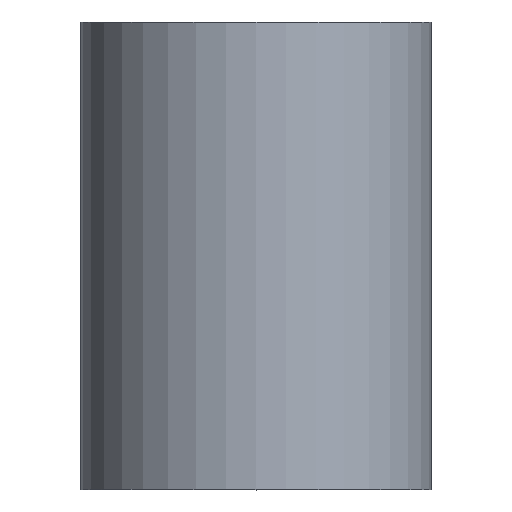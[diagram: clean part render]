
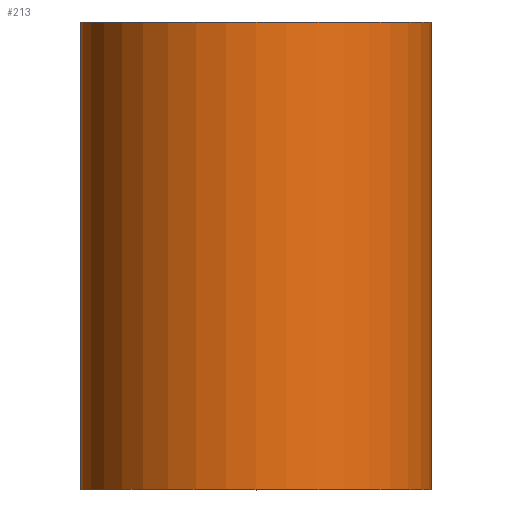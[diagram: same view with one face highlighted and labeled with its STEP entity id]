
A CAD part, top view. The second image highlights one B-rep face of the part: STEP entity #213.
In plain terms, the highlighted cylindrical face has radius 3 mm (diameter 6 mm), a partial arc.
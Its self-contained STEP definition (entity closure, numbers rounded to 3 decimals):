
#5 = DIRECTION ( 'NONE',  ( 0., 1., 0. ) ) ;
#8 = ORIENTED_EDGE ( 'NONE', *, *, #224, .T. ) ;
#15 = ORIENTED_EDGE ( 'NONE', *, *, #169, .T. ) ;
#18 = CARTESIAN_POINT ( 'NONE',  ( -3., 0., 0. ) ) ;
#19 = CARTESIAN_POINT ( 'NONE',  ( 0., 8., 0. ) ) ;
#33 = ORIENTED_EDGE ( 'NONE', *, *, #187, .F. ) ;
#53 = CARTESIAN_POINT ( 'NONE',  ( -3., 0., 0. ) ) ;
#56 = CARTESIAN_POINT ( 'NONE',  ( 3., 0., 0. ) ) ;
#72 = CYLINDRICAL_SURFACE ( 'NONE', #129, 3. ) ;
#91 = DIRECTION ( 'NONE',  ( 0., 1., 0. ) ) ;
#102 = LINE ( 'NONE', #53, #256 ) ;
#104 = CIRCLE ( 'NONE', #141, 3. ) ;
#116 = DIRECTION ( 'NONE',  ( 0., 1., 0. ) ) ;
#129 = AXIS2_PLACEMENT_3D ( 'NONE', #162, #5, #212 ) ;
#131 = FACE_OUTER_BOUND ( 'NONE', #246, .T. ) ;
#132 = LINE ( 'NONE', #56, #200 ) ;
#141 = AXIS2_PLACEMENT_3D ( 'NONE', #19, #91, #244 ) ;
#156 = CARTESIAN_POINT ( 'NONE',  ( 0., 0., 0. ) ) ;
#162 = CARTESIAN_POINT ( 'NONE',  ( 0., 0., 0. ) ) ;
#163 = CARTESIAN_POINT ( 'NONE',  ( -3., 8., 0. ) ) ;
#169 = EDGE_CURVE ( 'NONE', #289, #181, #214, .T. ) ;
#170 = ORIENTED_EDGE ( 'NONE', *, *, #294, .F. ) ;
#178 = VERTEX_POINT ( 'NONE', #217 ) ;
#181 = VERTEX_POINT ( 'NONE', #215 ) ;
#187 = EDGE_CURVE ( 'NONE', #289, #229, #102, .T. ) ;
#188 = DIRECTION ( 'NONE',  ( 0., 1., 0. ) ) ;
#200 = VECTOR ( 'NONE', #188, 1000. ) ;
#212 = DIRECTION ( 'NONE',  ( -1., 0., 0. ) ) ;
#213 = ADVANCED_FACE ( 'NONE', ( #131 ), #72, .T. ) ;
#214 = CIRCLE ( 'NONE', #295, 3. ) ;
#215 = CARTESIAN_POINT ( 'NONE',  ( 3., 0., 0. ) ) ;
#217 = CARTESIAN_POINT ( 'NONE',  ( 3., 8., 0. ) ) ;
#224 = EDGE_CURVE ( 'NONE', #181, #178, #132, .T. ) ;
#229 = VERTEX_POINT ( 'NONE', #163 ) ;
#238 = DIRECTION ( 'NONE',  ( 0., 1., 0. ) ) ;
#240 = DIRECTION ( 'NONE',  ( -1., 0., 0. ) ) ;
#244 = DIRECTION ( 'NONE',  ( -1., 0., 0. ) ) ;
#246 = EDGE_LOOP ( 'NONE', ( #15, #8, #170, #33 ) ) ;
#256 = VECTOR ( 'NONE', #238, 1000. ) ;
#289 = VERTEX_POINT ( 'NONE', #18 ) ;
#294 = EDGE_CURVE ( 'NONE', #229, #178, #104, .T. ) ;
#295 = AXIS2_PLACEMENT_3D ( 'NONE', #156, #116, #240 ) ;
